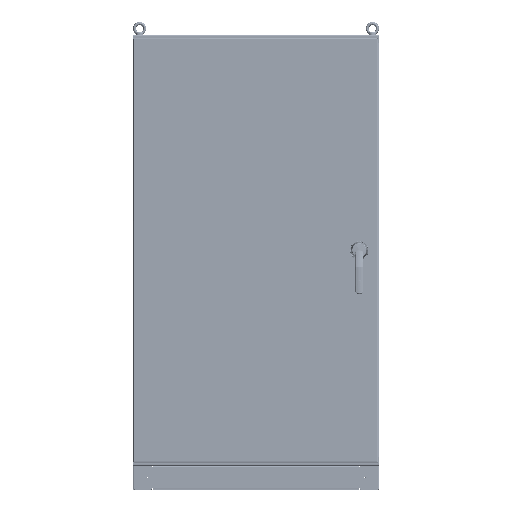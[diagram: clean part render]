
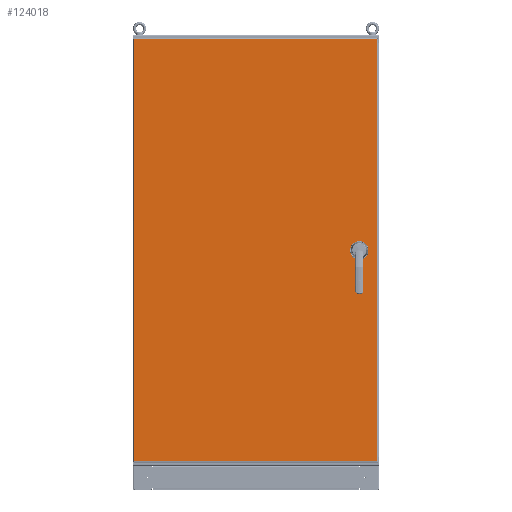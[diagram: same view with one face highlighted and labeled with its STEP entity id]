
A CAD part, top view. The second image highlights one B-rep face of the part: STEP entity #124018.
In plain terms, the highlighted planar face has unit normal (0, 0, 1).
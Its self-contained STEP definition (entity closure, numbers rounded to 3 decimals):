
#22481 = EDGE_CURVE ( 'NONE', #232331, #232332, #218667, .T. ) ;
#22496 = EDGE_CURVE ( 'NONE', #232335, #232336, #218681, .T. ) ;
#22513 = EDGE_CURVE ( 'NONE', #232339, #232340, #218695, .T. ) ;
#22852 = EDGE_CURVE ( 'NONE', #59307, #59301, #218974, .T. ) ;
#22870 = EDGE_CURVE ( 'NONE', #232340, #232339, #219018, .T. ) ;
#22880 = EDGE_CURVE ( 'NONE', #59303, #59305, #219012, .T. ) ;
#22889 = EDGE_CURVE ( 'NONE', #59301, #59303, #219010, .T. ) ;
#22893 = EDGE_CURVE ( 'NONE', #232332, #232331, #219035, .T. ) ;
#22897 = EDGE_CURVE ( 'NONE', #232336, #232335, #219039, .T. ) ;
#22901 = EDGE_CURVE ( 'NONE', #59305, #59307, #219025, .T. ) ;
#59301 = VERTEX_POINT ( 'NONE', #155880 ) ;
#59303 = VERTEX_POINT ( 'NONE', #155883 ) ;
#59305 = VERTEX_POINT ( 'NONE', #155885 ) ;
#59307 = VERTEX_POINT ( 'NONE', #155888 ) ;
#80028 = AXIS2_PLACEMENT_3D ( 'NONE', #140457, #140467, #140470 ) ;
#80030 = AXIS2_PLACEMENT_3D ( 'NONE', #140493, #140500, #140503 ) ;
#80032 = AXIS2_PLACEMENT_3D ( 'NONE', #140514, #140524, #140536 ) ;
#80065 = AXIS2_PLACEMENT_3D ( 'NONE', #141203, #141211, #141213 ) ;
#80068 = AXIS2_PLACEMENT_3D ( 'NONE', #141169, #141180, #141182 ) ;
#80069 = AXIS2_PLACEMENT_3D ( 'NONE', #141194, #141205, #141206 ) ;
#124018 = ADVANCED_FACE ( 'NONE', ( #207824, #207832, #207835, #207837 ), #212104, .T. ) ;
#140457 = CARTESIAN_POINT ( 'NONE',  ( 404.48, 0., 1.753 ) ) ;
#140467 = DIRECTION ( 'NONE',  ( 0., 0., 1. ) ) ;
#140470 = DIRECTION ( 'NONE',  ( 1., 0., 0. ) ) ;
#140493 = CARTESIAN_POINT ( 'NONE',  ( 450.505, 0., 1.753 ) ) ;
#140500 = DIRECTION ( 'NONE',  ( 0., 0., 1. ) ) ;
#140503 = DIRECTION ( 'NONE',  ( 1., 0., 0. ) ) ;
#140514 = CARTESIAN_POINT ( 'NONE',  ( 427.493, 0., 1.753 ) ) ;
#140524 = DIRECTION ( 'NONE',  ( 0., 0., 1. ) ) ;
#140536 = DIRECTION ( 'NONE',  ( 1., 0., 0. ) ) ;
#141157 = CARTESIAN_POINT ( 'NONE',  ( 500.946, -873.876, 1.753 ) ) ;
#141159 = DIRECTION ( 'NONE',  ( 0., 1., 0. ) ) ;
#141169 = CARTESIAN_POINT ( 'NONE',  ( 427.493, 0., 1.753 ) ) ;
#141178 = CARTESIAN_POINT ( 'NONE',  ( -500.946, 873.876, 1.753 ) ) ;
#141180 = DIRECTION ( 'NONE',  ( 0., 0., 1. ) ) ;
#141182 = DIRECTION ( 'NONE',  ( 1., 0., 0. ) ) ;
#141190 = DIRECTION ( 'NONE',  ( 0., -1., 0. ) ) ;
#141194 = CARTESIAN_POINT ( 'NONE',  ( 404.48, 0., 1.753 ) ) ;
#141197 = CARTESIAN_POINT ( 'NONE',  ( 503.381, 871.441, 1.753 ) ) ;
#141200 = DIRECTION ( 'NONE',  ( -1., 0., 0. ) ) ;
#141203 = CARTESIAN_POINT ( 'NONE',  ( 450.505, 0., 1.753 ) ) ;
#141205 = DIRECTION ( 'NONE',  ( 0., 0., 1. ) ) ;
#141206 = DIRECTION ( 'NONE',  ( 1., 0., 0. ) ) ;
#141211 = DIRECTION ( 'NONE',  ( 0., 0., 1. ) ) ;
#141213 = DIRECTION ( 'NONE',  ( 1., 0., 0. ) ) ;
#141217 = CARTESIAN_POINT ( 'NONE',  ( -503.381, -871.441, 1.753 ) ) ;
#141219 = DIRECTION ( 'NONE',  ( 1., 0., 0. ) ) ;
#155880 = CARTESIAN_POINT ( 'NONE',  ( 500.946, 871.441, 1.753 ) ) ;
#155883 = CARTESIAN_POINT ( 'NONE',  ( -500.946, 871.441, 1.753 ) ) ;
#155885 = CARTESIAN_POINT ( 'NONE',  ( -500.946, -871.441, 1.753 ) ) ;
#155888 = CARTESIAN_POINT ( 'NONE',  ( 500.946, -871.441, 1.753 ) ) ;
#163450 = CARTESIAN_POINT ( 'NONE',  ( 400.912, 0., 1.753 ) ) ;
#163451 = CARTESIAN_POINT ( 'NONE',  ( 408.049, 0., 1.753 ) ) ;
#163454 = CARTESIAN_POINT ( 'NONE',  ( 446.936, 0., 1.753 ) ) ;
#163455 = CARTESIAN_POINT ( 'NONE',  ( 454.074, 0., 1.753 ) ) ;
#163458 = CARTESIAN_POINT ( 'NONE',  ( 420.343, 0., 1.753 ) ) ;
#163459 = CARTESIAN_POINT ( 'NONE',  ( 434.643, 0., 1.753 ) ) ;
#184466 = AXIS2_PLACEMENT_3D ( 'NONE', #212105, #212106, #212107 ) ;
#200303 = ORIENTED_EDGE ( 'NONE', *, *, #22893, .F. ) ;
#200304 = ORIENTED_EDGE ( 'NONE', *, *, #22481, .F. ) ;
#200305 = ORIENTED_EDGE ( 'NONE', *, *, #22897, .F. ) ;
#200306 = ORIENTED_EDGE ( 'NONE', *, *, #22496, .F. ) ;
#200307 = ORIENTED_EDGE ( 'NONE', *, *, #22870, .F. ) ;
#200308 = ORIENTED_EDGE ( 'NONE', *, *, #22513, .F. ) ;
#200309 = ORIENTED_EDGE ( 'NONE', *, *, #22889, .T. ) ;
#200310 = ORIENTED_EDGE ( 'NONE', *, *, #22880, .T. ) ;
#200311 = ORIENTED_EDGE ( 'NONE', *, *, #22901, .T. ) ;
#200312 = ORIENTED_EDGE ( 'NONE', *, *, #22852, .T. ) ;
#207824 = FACE_BOUND ( 'NONE', #226692, .T. ) ;
#207832 = FACE_BOUND ( 'NONE', #226696, .T. ) ;
#207835 = FACE_BOUND ( 'NONE', #226698, .T. ) ;
#207837 = FACE_OUTER_BOUND ( 'NONE', #226700, .T. ) ;
#212104 = PLANE ( 'NONE',  #184466 ) ;
#212105 = CARTESIAN_POINT ( 'NONE',  ( -503.74, -874.235, 1.753 ) ) ;
#212106 = DIRECTION ( 'NONE',  ( 0., 0., 1. ) ) ;
#212107 = DIRECTION ( 'NONE',  ( 1., 0., 0. ) ) ;
#218667 = CIRCLE ( 'NONE', #80028, 3.569 ) ;
#218681 = CIRCLE ( 'NONE', #80030, 3.569 ) ;
#218695 = CIRCLE ( 'NONE', #80032, 7.15 ) ;
#218974 = LINE ( 'NONE', #141157, #218981 ) ;
#218981 = VECTOR ( 'NONE', #141159, 1000. ) ;
#219010 = LINE ( 'NONE', #141197, #219027 ) ;
#219012 = LINE ( 'NONE', #141178, #219020 ) ;
#219018 = CIRCLE ( 'NONE', #80068, 7.15 ) ;
#219020 = VECTOR ( 'NONE', #141190, 1000. ) ;
#219025 = LINE ( 'NONE', #141217, #219037 ) ;
#219027 = VECTOR ( 'NONE', #141200, 1000. ) ;
#219035 = CIRCLE ( 'NONE', #80069, 3.569 ) ;
#219037 = VECTOR ( 'NONE', #141219, 1000. ) ;
#219039 = CIRCLE ( 'NONE', #80065, 3.569 ) ;
#226692 = EDGE_LOOP ( 'NONE', ( #200303, #200304 ) ) ;
#226696 = EDGE_LOOP ( 'NONE', ( #200305, #200306 ) ) ;
#226698 = EDGE_LOOP ( 'NONE', ( #200307, #200308 ) ) ;
#226700 = EDGE_LOOP ( 'NONE', ( #200309, #200310, #200311, #200312 ) ) ;
#232331 = VERTEX_POINT ( 'NONE', #163450 ) ;
#232332 = VERTEX_POINT ( 'NONE', #163451 ) ;
#232335 = VERTEX_POINT ( 'NONE', #163454 ) ;
#232336 = VERTEX_POINT ( 'NONE', #163455 ) ;
#232339 = VERTEX_POINT ( 'NONE', #163458 ) ;
#232340 = VERTEX_POINT ( 'NONE', #163459 ) ;
